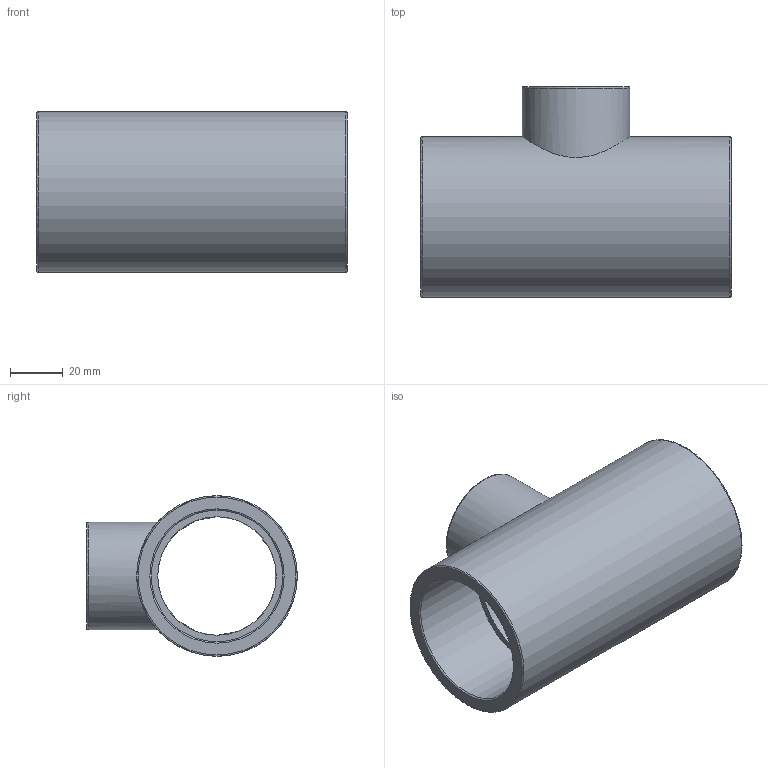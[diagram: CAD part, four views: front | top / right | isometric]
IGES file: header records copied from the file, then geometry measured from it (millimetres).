
Global section: file name: 051400050032.ipt; native system: Autodesk Inventor 2015; preprocessor: unknown; author: KIM; date: 20171207.165219; units: millimetre
Bounding box: 118 x 80 x 61 mm (x, y, z)
Volume: 139764.3 mm3; surface area: 47130.3 mm2
Topology: 1 solids, 1 shells, 19 faces, 58 edges, 44 vertices
Faces by surface type: revolution 11, plane 6, cylinder 2
Full cylindrical faces by diameter (mm): 41 x1, 61 x1
